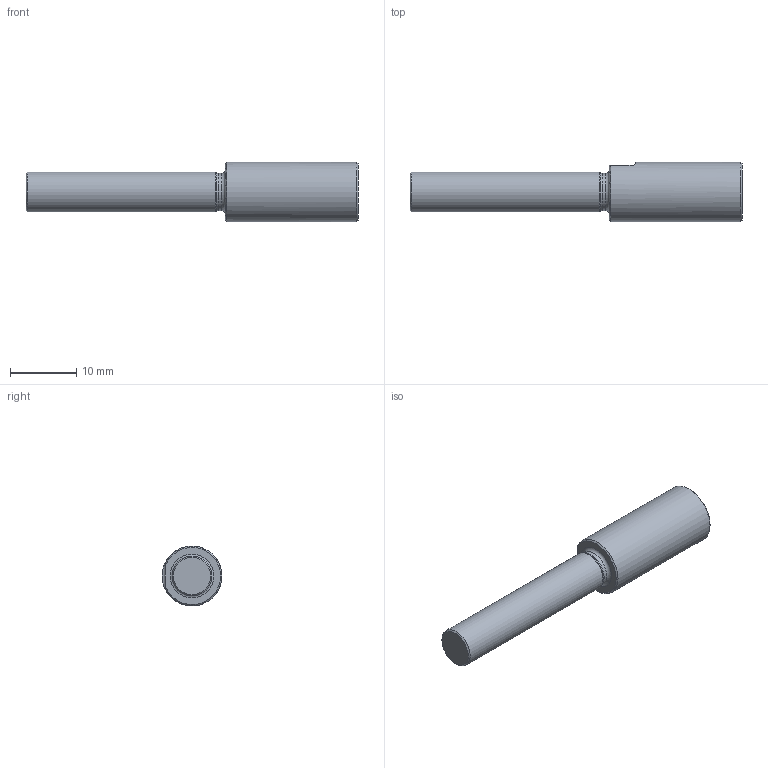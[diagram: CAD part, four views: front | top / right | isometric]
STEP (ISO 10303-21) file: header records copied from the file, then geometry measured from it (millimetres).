
FILE_DESCRIPTION(/* description */ (''),/* implementation_level */ '2;1');
FILE_NAME(/* name */ 'UF S-L050-D09-C06.stp',/* time_stamp */ '2026-03-04T21:43:04+02:00',/* author */ ('harel'),/* organization */ (''),/* preprocessor_version */ 'ST-DEVELOPER v20',/* originating_system */ 'Autodesk Inventor 2025',/* authorisation */ '');
FILE_SCHEMA (('AUTOMOTIVE_DESIGN { 1 0 10303 214 3 1 1 }'));
Length unit declared in the file: millimetre
Products named in the file (1): UF S-L045-D06-C06
Bounding box: 50 x 9 x 9 mm (x, y, z)
Volume: 2109.8 mm3; surface area: 1247.7 mm2
Topology: 1 solids, 1 shells, 15 faces, 33 edges, 21 vertices
Faces by surface type: plane 5, cylinder 4, cone 4, torus 2
Full cylindrical faces by diameter (mm): 5.6 x1, 6 x1, 9 x1
Entity records: 480 total; most frequent: CARTESIAN_POINT 96, DIRECTION 79, ORIENTED_EDGE 66, AXIS2_PLACEMENT_3D 34, EDGE_CURVE 33, VERTEX_POINT 21, CIRCLE 18, EDGE_LOOP 16
